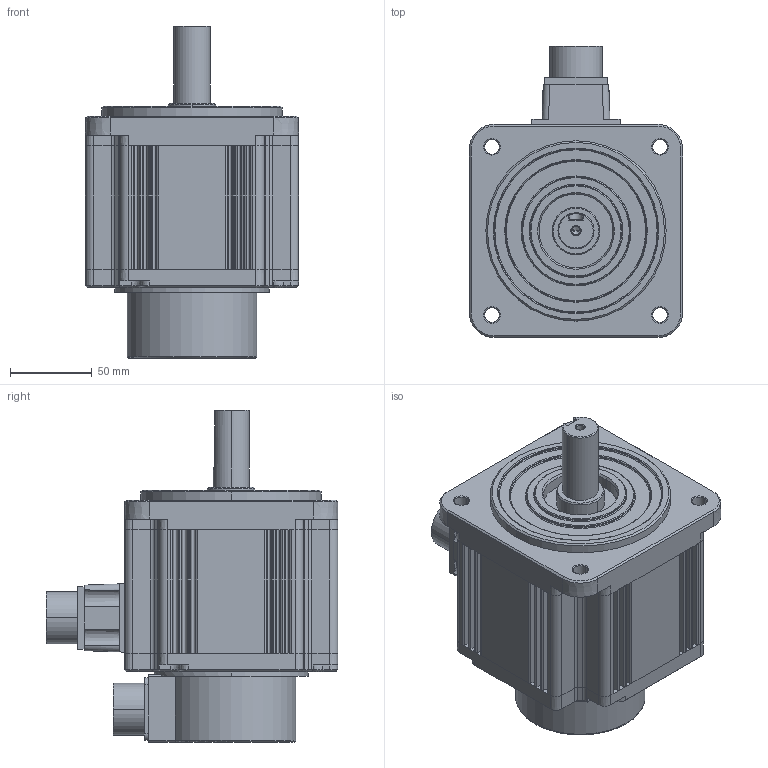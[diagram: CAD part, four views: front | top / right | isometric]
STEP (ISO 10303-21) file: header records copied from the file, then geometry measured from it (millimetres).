
FILE_DESCRIPTION((''),'2;1');
FILE_NAME('ECMA-EX1305ES','2015-04-01T',('MIO.CHEN'),(''),'PRO/ENGINEER BY PARAMETRIC TECHNOLOGY CORPORATION, 2010180','PRO/ENGINEER BY PARAMETRIC TECHNOLOGY CORPORATION, 2010180','');
FILE_SCHEMA(('AUTOMOTIVE_DESIGN_CC2 { 1 2 10303 214 -1 1 5 2 }'));
Length unit declared in the file: millimetre
Products named in the file (1): ECMA-EX1305ES
Bounding box: 130 x 177.75 x 202.5 mm (x, y, z)
Volume: 1922206.9 mm3; surface area: 129870.2 mm2
Topology: 1 solids, 1 shells, 516 faces, 1243 edges, 742 vertices
Faces by surface type: plane 265, cylinder 132, cone 101, torus 17, bspline 1
Entity records: 14999 total; most frequent: CARTESIAN_POINT 2753, DIRECTION 2649, ORIENTED_EDGE 2482, EDGE_CURVE 1241, AXIS2_PLACEMENT_3D 936, VECTOR 777, LINE 777, VERTEX_POINT 742
